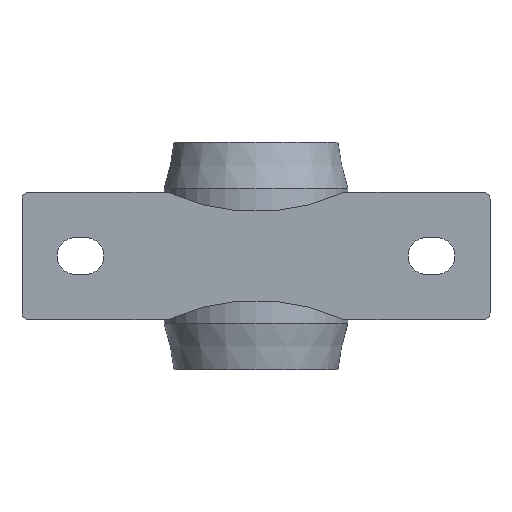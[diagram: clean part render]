
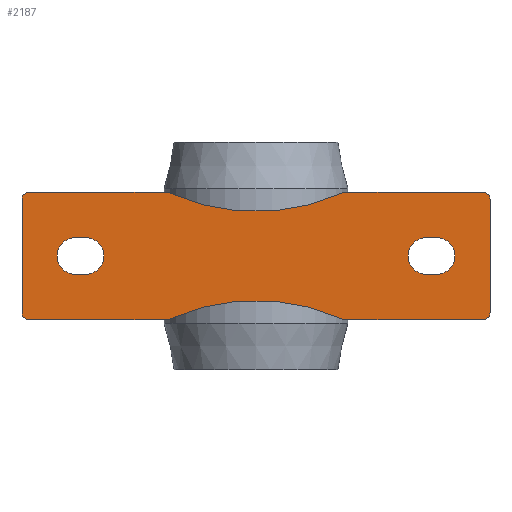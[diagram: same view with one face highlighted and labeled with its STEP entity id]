
A CAD part, front view. The second image highlights one B-rep face of the part: STEP entity #2187.
In plain terms, the highlighted planar face has unit normal (0, -1, 0).
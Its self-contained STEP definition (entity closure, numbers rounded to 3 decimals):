
#114=FACE_BOUND('',#334,.T.);
#115=FACE_BOUND('',#335,.T.);
#140=PLANE('',#2441);
#207=FACE_OUTER_BOUND('',#333,.T.);
#333=EDGE_LOOP('',(#1427,#1428,#1429,#1430,#1431,#1432,#1433,#1434,#1435,
#1436,#1437,#1438));
#334=EDGE_LOOP('',(#1439,#1440,#1441,#1442));
#335=EDGE_LOOP('',(#1443,#1444,#1445,#1446));
#507=LINE('',#3439,#640);
#508=LINE('',#3443,#641);
#509=LINE('',#3447,#642);
#510=LINE('',#3451,#643);
#511=LINE('',#3455,#644);
#512=LINE('',#3458,#645);
#513=LINE('',#3463,#646);
#514=LINE('',#3466,#647);
#515=LINE('',#3471,#648);
#516=LINE('',#3474,#649);
#640=VECTOR('',#2724,10.);
#641=VECTOR('',#2727,10.);
#642=VECTOR('',#2730,10.);
#643=VECTOR('',#2733,10.);
#644=VECTOR('',#2736,10.);
#645=VECTOR('',#2739,10.);
#646=VECTOR('',#2742,10.);
#647=VECTOR('',#2745,10.);
#648=VECTOR('',#2748,10.);
#649=VECTOR('',#2751,10.);
#774=CIRCLE('',#2442,2.);
#775=CIRCLE('',#2443,63.);
#776=CIRCLE('',#2444,2.);
#777=CIRCLE('',#2445,2.);
#778=CIRCLE('',#2446,63.);
#779=CIRCLE('',#2447,2.);
#780=CIRCLE('',#2448,5.5);
#781=CIRCLE('',#2449,5.5);
#782=CIRCLE('',#2450,5.5);
#783=CIRCLE('',#2451,5.5);
#895=VERTEX_POINT('',#3435);
#896=VERTEX_POINT('',#3436);
#897=VERTEX_POINT('',#3438);
#898=VERTEX_POINT('',#3440);
#899=VERTEX_POINT('',#3442);
#900=VERTEX_POINT('',#3444);
#901=VERTEX_POINT('',#3446);
#902=VERTEX_POINT('',#3448);
#903=VERTEX_POINT('',#3450);
#904=VERTEX_POINT('',#3452);
#905=VERTEX_POINT('',#3454);
#906=VERTEX_POINT('',#3456);
#907=VERTEX_POINT('',#3459);
#908=VERTEX_POINT('',#3460);
#909=VERTEX_POINT('',#3462);
#910=VERTEX_POINT('',#3464);
#911=VERTEX_POINT('',#3467);
#912=VERTEX_POINT('',#3468);
#913=VERTEX_POINT('',#3470);
#914=VERTEX_POINT('',#3472);
#1110=EDGE_CURVE('',#895,#896,#774,.T.);
#1111=EDGE_CURVE('',#895,#897,#507,.T.);
#1112=EDGE_CURVE('',#897,#898,#775,.T.);
#1113=EDGE_CURVE('',#898,#899,#508,.T.);
#1114=EDGE_CURVE('',#900,#899,#776,.T.);
#1115=EDGE_CURVE('',#900,#901,#509,.T.);
#1116=EDGE_CURVE('',#902,#901,#777,.T.);
#1117=EDGE_CURVE('',#903,#902,#510,.T.);
#1118=EDGE_CURVE('',#903,#904,#778,.T.);
#1119=EDGE_CURVE('',#905,#904,#511,.T.);
#1120=EDGE_CURVE('',#906,#905,#779,.T.);
#1121=EDGE_CURVE('',#906,#896,#512,.T.);
#1122=EDGE_CURVE('',#907,#908,#780,.T.);
#1123=EDGE_CURVE('',#908,#909,#513,.T.);
#1124=EDGE_CURVE('',#909,#910,#781,.T.);
#1125=EDGE_CURVE('',#910,#907,#514,.T.);
#1126=EDGE_CURVE('',#911,#912,#782,.T.);
#1127=EDGE_CURVE('',#912,#913,#515,.T.);
#1128=EDGE_CURVE('',#913,#914,#783,.T.);
#1129=EDGE_CURVE('',#914,#911,#516,.T.);
#1427=ORIENTED_EDGE('',*,*,#1110,.F.);
#1428=ORIENTED_EDGE('',*,*,#1111,.T.);
#1429=ORIENTED_EDGE('',*,*,#1112,.T.);
#1430=ORIENTED_EDGE('',*,*,#1113,.T.);
#1431=ORIENTED_EDGE('',*,*,#1114,.F.);
#1432=ORIENTED_EDGE('',*,*,#1115,.T.);
#1433=ORIENTED_EDGE('',*,*,#1116,.F.);
#1434=ORIENTED_EDGE('',*,*,#1117,.F.);
#1435=ORIENTED_EDGE('',*,*,#1118,.T.);
#1436=ORIENTED_EDGE('',*,*,#1119,.F.);
#1437=ORIENTED_EDGE('',*,*,#1120,.F.);
#1438=ORIENTED_EDGE('',*,*,#1121,.T.);
#1439=ORIENTED_EDGE('',*,*,#1122,.T.);
#1440=ORIENTED_EDGE('',*,*,#1123,.T.);
#1441=ORIENTED_EDGE('',*,*,#1124,.T.);
#1442=ORIENTED_EDGE('',*,*,#1125,.T.);
#1443=ORIENTED_EDGE('',*,*,#1126,.T.);
#1444=ORIENTED_EDGE('',*,*,#1127,.T.);
#1445=ORIENTED_EDGE('',*,*,#1128,.T.);
#1446=ORIENTED_EDGE('',*,*,#1129,.T.);
#2187=ADVANCED_FACE('',(#207,#114,#115),#140,.F.);
#2441=AXIS2_PLACEMENT_3D('',#3434,#2720,#2721);
#2442=AXIS2_PLACEMENT_3D('',#3437,#2722,#2723);
#2443=AXIS2_PLACEMENT_3D('',#3441,#2725,#2726);
#2444=AXIS2_PLACEMENT_3D('',#3445,#2728,#2729);
#2445=AXIS2_PLACEMENT_3D('',#3449,#2731,#2732);
#2446=AXIS2_PLACEMENT_3D('',#3453,#2734,#2735);
#2447=AXIS2_PLACEMENT_3D('',#3457,#2737,#2738);
#2448=AXIS2_PLACEMENT_3D('',#3461,#2740,#2741);
#2449=AXIS2_PLACEMENT_3D('',#3465,#2743,#2744);
#2450=AXIS2_PLACEMENT_3D('',#3469,#2746,#2747);
#2451=AXIS2_PLACEMENT_3D('',#3473,#2749,#2750);
#2720=DIRECTION('center_axis',(0.,1.,0.));
#2721=DIRECTION('ref_axis',(0.,0.,1.));
#2722=DIRECTION('center_axis',(0.,1.,0.));
#2723=DIRECTION('ref_axis',(-0.707,0.,-0.707));
#2724=DIRECTION('',(1.,0.,0.));
#2725=DIRECTION('center_axis',(0.,1.,0.));
#2726=DIRECTION('ref_axis',(1.,0.,0.));
#2727=DIRECTION('',(1.,0.,0.));
#2728=DIRECTION('center_axis',(0.,1.,0.));
#2729=DIRECTION('ref_axis',(0.707,0.,-0.707));
#2730=DIRECTION('',(0.,0.,1.));
#2731=DIRECTION('center_axis',(0.,1.,0.));
#2732=DIRECTION('ref_axis',(0.707,0.,0.707));
#2733=DIRECTION('',(1.,0.,0.));
#2734=DIRECTION('center_axis',(0.,1.,0.));
#2735=DIRECTION('ref_axis',(1.,0.,0.));
#2736=DIRECTION('',(1.,0.,0.));
#2737=DIRECTION('center_axis',(0.,1.,0.));
#2738=DIRECTION('ref_axis',(-0.707,0.,0.707));
#2739=DIRECTION('',(0.,0.,-1.));
#2740=DIRECTION('center_axis',(0.,1.,0.));
#2741=DIRECTION('ref_axis',(0.,0.,1.));
#2742=DIRECTION('',(1.,0.,0.));
#2743=DIRECTION('center_axis',(0.,1.,0.));
#2744=DIRECTION('ref_axis',(0.,0.,-1.));
#2745=DIRECTION('',(-1.,0.,0.));
#2746=DIRECTION('center_axis',(0.,1.,0.));
#2747=DIRECTION('ref_axis',(0.,0.,1.));
#2748=DIRECTION('',(-1.,0.,0.));
#2749=DIRECTION('center_axis',(0.,1.,0.));
#2750=DIRECTION('ref_axis',(0.,0.,-1.));
#2751=DIRECTION('',(1.,0.,0.));
#3434=CARTESIAN_POINT('Origin',(-35.,-36.5,0.));
#3435=CARTESIAN_POINT('',(-68.,-36.5,-19.));
#3436=CARTESIAN_POINT('',(-70.,-36.5,-17.));
#3437=CARTESIAN_POINT('Origin',(-68.,-36.5,-17.));
#3438=CARTESIAN_POINT('',(-26.295,-36.5,-19.));
#3439=CARTESIAN_POINT('',(-70.,-36.5,-19.));
#3440=CARTESIAN_POINT('',(26.295,-36.5,-19.));
#3441=CARTESIAN_POINT('Origin',(0.,-36.5,-76.25));
#3442=CARTESIAN_POINT('',(68.,-36.5,-19.));
#3443=CARTESIAN_POINT('',(-70.,-36.5,-19.));
#3444=CARTESIAN_POINT('',(70.,-36.5,-17.));
#3445=CARTESIAN_POINT('Origin',(68.,-36.5,-17.));
#3446=CARTESIAN_POINT('',(70.,-36.5,17.));
#3447=CARTESIAN_POINT('',(70.,-36.5,0.));
#3448=CARTESIAN_POINT('',(68.,-36.5,19.));
#3449=CARTESIAN_POINT('Origin',(68.,-36.5,17.));
#3450=CARTESIAN_POINT('',(26.295,-36.5,19.));
#3451=CARTESIAN_POINT('',(-10.5,-36.5,19.));
#3452=CARTESIAN_POINT('',(-26.295,-36.5,19.));
#3453=CARTESIAN_POINT('Origin',(0.,-36.5,76.25));
#3454=CARTESIAN_POINT('',(-68.,-36.5,19.));
#3455=CARTESIAN_POINT('',(-10.5,-36.5,19.));
#3456=CARTESIAN_POINT('',(-70.,-36.5,17.));
#3457=CARTESIAN_POINT('Origin',(-68.,-36.5,17.));
#3458=CARTESIAN_POINT('',(-70.,-36.5,0.));
#3459=CARTESIAN_POINT('',(51.,-36.5,-5.5));
#3460=CARTESIAN_POINT('',(51.,-36.5,5.5));
#3461=CARTESIAN_POINT('Origin',(51.,-36.5,0.));
#3462=CARTESIAN_POINT('',(54.,-36.5,5.5));
#3463=CARTESIAN_POINT('',(9.5,-36.5,5.5));
#3464=CARTESIAN_POINT('',(54.,-36.5,-5.5));
#3465=CARTESIAN_POINT('Origin',(54.,-36.5,0.));
#3466=CARTESIAN_POINT('',(8.,-36.5,-5.5));
#3467=CARTESIAN_POINT('',(-51.,-36.5,5.5));
#3468=CARTESIAN_POINT('',(-51.,-36.5,-5.5));
#3469=CARTESIAN_POINT('Origin',(-51.,-36.5,0.));
#3470=CARTESIAN_POINT('',(-54.,-36.5,-5.5));
#3471=CARTESIAN_POINT('',(-44.5,-36.5,-5.5));
#3472=CARTESIAN_POINT('',(-54.,-36.5,5.5));
#3473=CARTESIAN_POINT('Origin',(-54.,-36.5,0.));
#3474=CARTESIAN_POINT('',(-43.,-36.5,5.5));
